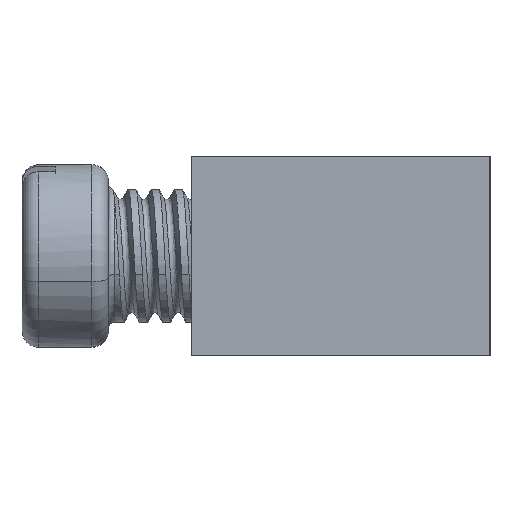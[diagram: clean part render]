
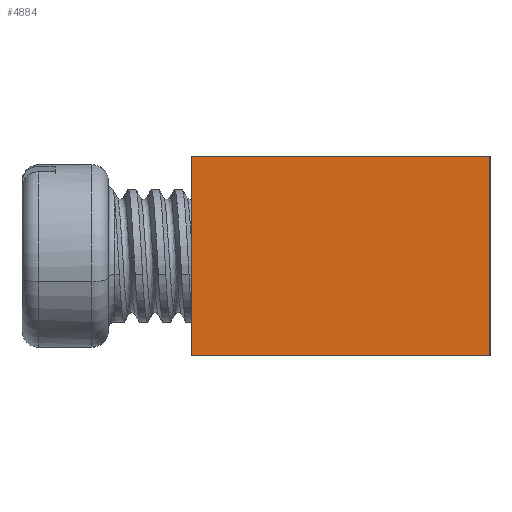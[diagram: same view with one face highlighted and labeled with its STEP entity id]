
A CAD part, left-side view. The second image highlights one B-rep face of the part: STEP entity #4884.
In plain terms, the highlighted planar face has unit normal (-1, 0, 0).
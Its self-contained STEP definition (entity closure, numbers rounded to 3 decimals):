
#86 = VECTOR ( 'NONE', #4794, 1000. ) ;
#237 = CARTESIAN_POINT ( 'NONE',  ( 0., 0., 0. ) ) ;
#271 = EDGE_CURVE ( 'NONE', #4127, #4652, #3453, .T. ) ;
#353 = CARTESIAN_POINT ( 'NONE',  ( 0., 9., 0. ) ) ;
#450 = ORIENTED_EDGE ( 'NONE', *, *, #2749, .T. ) ;
#544 = DIRECTION ( 'NONE',  ( -1., 0., 0. ) ) ;
#686 = LINE ( 'NONE', #4245, #2911 ) ;
#1451 = LINE ( 'NONE', #5804, #2633 ) ;
#1596 = DIRECTION ( 'NONE',  ( 0., -1., 0. ) ) ;
#1687 = EDGE_CURVE ( 'NONE', #4127, #1985, #1451, .T. ) ;
#1793 = DIRECTION ( 'NONE',  ( 0., -1., 0. ) ) ;
#1850 = CARTESIAN_POINT ( 'NONE',  ( 0., 0., -6. ) ) ;
#1904 = CARTESIAN_POINT ( 'NONE',  ( 0., 0., -6. ) ) ;
#1985 = VERTEX_POINT ( 'NONE', #353 ) ;
#2074 = ORIENTED_EDGE ( 'NONE', *, *, #1687, .F. ) ;
#2127 = CARTESIAN_POINT ( 'NONE',  ( 0., 9., -6. ) ) ;
#2134 = DIRECTION ( 'NONE',  ( 0., 0., 1. ) ) ;
#2579 = AXIS2_PLACEMENT_3D ( 'NONE', #1850, #544, #3675 ) ;
#2633 = VECTOR ( 'NONE', #2134, 1000. ) ;
#2749 = EDGE_CURVE ( 'NONE', #4652, #3998, #5187, .T. ) ;
#2911 = VECTOR ( 'NONE', #1596, 1000. ) ;
#3102 = VECTOR ( 'NONE', #1793, 1000. ) ;
#3453 = LINE ( 'NONE', #1904, #3102 ) ;
#3548 = FACE_OUTER_BOUND ( 'NONE', #5124, .T. ) ;
#3650 = PLANE ( 'NONE',  #2579 ) ;
#3675 = DIRECTION ( 'NONE',  ( 0., 0., 1. ) ) ;
#3989 = ORIENTED_EDGE ( 'NONE', *, *, #5708, .F. ) ;
#3998 = VERTEX_POINT ( 'NONE', #237 ) ;
#4127 = VERTEX_POINT ( 'NONE', #2127 ) ;
#4245 = CARTESIAN_POINT ( 'NONE',  ( 0., 0., 0. ) ) ;
#4399 = ORIENTED_EDGE ( 'NONE', *, *, #271, .T. ) ;
#4472 = CARTESIAN_POINT ( 'NONE',  ( 0., 0., -6. ) ) ;
#4652 = VERTEX_POINT ( 'NONE', #4472 ) ;
#4794 = DIRECTION ( 'NONE',  ( 0., 0., 1. ) ) ;
#4884 = ADVANCED_FACE ( 'NONE', ( #3548 ), #3650, .T. ) ;
#4939 = CARTESIAN_POINT ( 'NONE',  ( 0., 0., -6. ) ) ;
#5124 = EDGE_LOOP ( 'NONE', ( #3989, #2074, #4399, #450 ) ) ;
#5187 = LINE ( 'NONE', #4939, #86 ) ;
#5708 = EDGE_CURVE ( 'NONE', #1985, #3998, #686, .T. ) ;
#5804 = CARTESIAN_POINT ( 'NONE',  ( 0., 9., -6. ) ) ;
